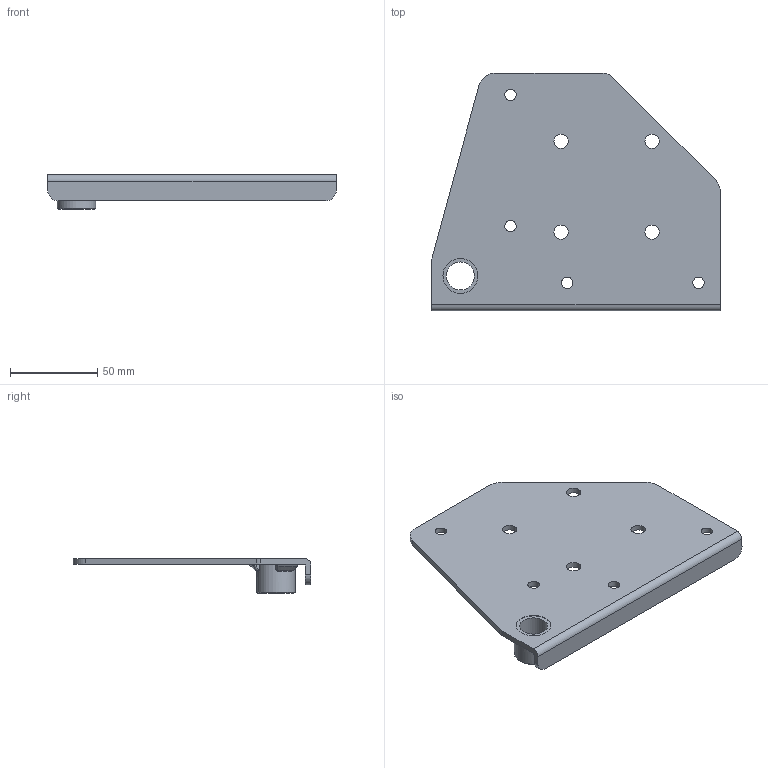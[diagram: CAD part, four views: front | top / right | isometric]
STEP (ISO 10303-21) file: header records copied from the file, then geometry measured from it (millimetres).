
FILE_DESCRIPTION(('STEP AP214'),'1');
FILE_NAME('AP40-M16L.stp','2018-04-13T10:10:59',(' '),(' '),'Spatial InterOp 3D',' ',' ');
FILE_SCHEMA(('automotive_design'));
Length unit declared in the file: millimetre
Products named in the file (1): AP40-M16L
Bounding box: 165 x 136 x 20 mm (x, y, z)
Volume: 67611.2 mm3; surface area: 44661.1 mm2
Topology: 1 solids, 1 shells, 65 faces, 183 edges, 122 vertices
Faces by surface type: cylinder 19, plane 18, bspline 18, torus 6, cone 4
Full cylindrical faces by diameter (mm): 6.5 x4, 8.2 x4, 16 x1, 20 x1, 22 x1
Entity records: 4747 total; most frequent: CARTESIAN_POINT 2696, ORIENTED_EDGE 338, DIRECTION 258, EDGE_CURVE 169, VERTEX_POINT 120, AXIS2_PLACEMENT_3D 107, EDGE_LOOP 97, FACE_OUTER_BOUND 76
